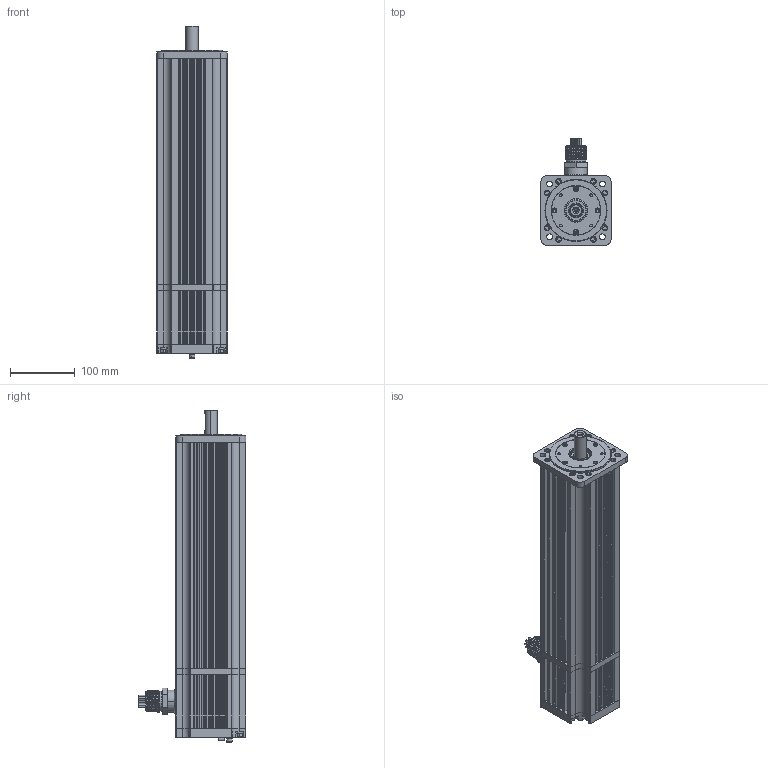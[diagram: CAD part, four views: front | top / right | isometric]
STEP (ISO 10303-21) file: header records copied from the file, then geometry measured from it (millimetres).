
FILE_DESCRIPTION (( 'STEP AP203' ), '1' );
FILE_NAME ('M444-HNNB-EU08.STEP', '2019-04-30T19:46:36', ( '' ), ( '' ), 'SwSTEP 2.0', 'SolidWorks 2016', '' );
FILE_SCHEMA (( 'CONFIG_CONTROL_DESIGN' ));
Length unit declared in the file: inch
Products named in the file (1): M444-HNNB-EU08
Bounding box: 108 x 166.17 x 511.22 mm (x, y, z)
Volume: 2460178 mm3; surface area: 622604.5 mm2
Topology: 57 solids, 57 shells, 2212 faces, 5287 edges, 3307 vertices
Faces by surface type: cylinder 948, plane 756, cone 349, torus 137, bspline 22
Entity records: 72718 total; most frequent: CARTESIAN_POINT 20137, DIRECTION 11680, ORIENTED_EDGE 10410, EDGE_CURVE 5205, AXIS2_PLACEMENT_3D 4568, VERTEX_POINT 3307, EDGE_LOOP 2546, VECTOR 2544
